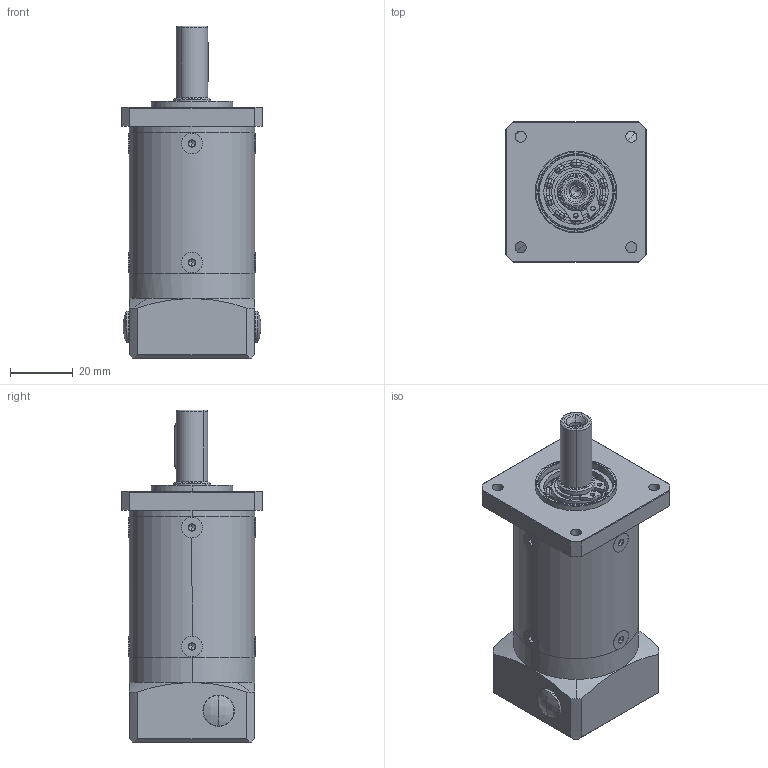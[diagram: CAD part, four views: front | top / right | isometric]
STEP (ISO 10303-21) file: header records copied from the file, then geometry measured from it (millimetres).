
FILE_DESCRIPTION (( 'STEP AP203' ), '1' );
FILE_NAME ('PF40L2-i-P2-S2-8-25-30-46-M4.step', '2020-03-23T09:09:02', ( '个人用户' ), ( '微软中国' ), 'SwSTEP 2.0', 'SolidWorks 2018', '' );
FILE_SCHEMA (( 'CONFIG_CONTROL_DESIGN' ));
Products named in the file (1): PF40L2-i-P2-S2-8-25-30-46-M4
Bounding box: 45 x 45 x 106 mm (x, y, z)
Volume: 75411.6 mm3; surface area: 50596.1 mm2
Topology: 27 solids, 27 shells, 1241 faces, 3351 edges, 2116 vertices
Faces by surface type: cylinder 347, plane 259, sphere 250, cone 193, torus 188, bspline 4
Entity records: 47774 total; most frequent: CARTESIAN_POINT 16994, ORIENTED_EDGE 6638, DIRECTION 6390, EDGE_CURVE 3319, AXIS2_PLACEMENT_3D 2856, VERTEX_POINT 2116, CIRCLE 1618, EDGE_LOOP 1431
